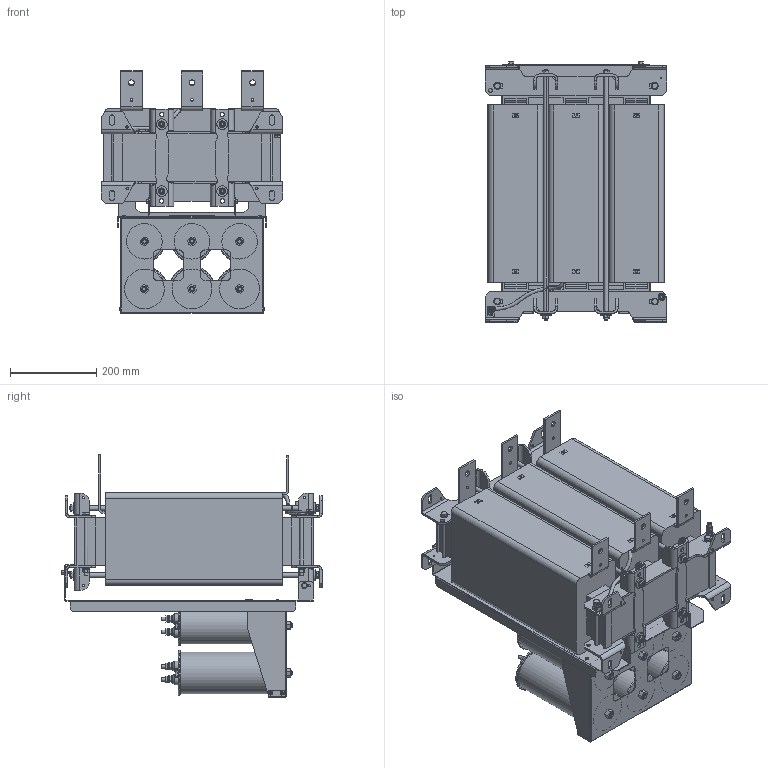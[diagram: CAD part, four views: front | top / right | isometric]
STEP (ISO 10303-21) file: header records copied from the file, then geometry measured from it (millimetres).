
FILE_DESCRIPTION(/* description */ (''),/* implementation_level */ '2;1');
FILE_NAME(/* name */ 'C:\Users\Erika.Jenzer\Desktop\CO20007647\Step Files\FN5420-480-99-E0XXT.stp',/* time_stamp */ '2021-03-02T10:14:27+01:00',/* author */ ('erika.jenzer'),/* organization */ (''),/* preprocessor_version */ 'ST-DEVELOPER v18.1',/* originating_system */ 'Autodesk Inventor 2020',/* authorisation */ '');
FILE_SCHEMA (('AUTOMOTIVE_DESIGN { 1 0 10303 214 3 1 1 }'));
Products named in the file (1): FN5420-480-99-E0XXT
Bounding box: 420 x 601.85 x 559.75 mm (x, y, z)
Volume: 49635259.1 mm3; surface area: 2949775.5 mm2
Topology: 31 solids, 31 shells, 2751 faces, 7503 edges, 5019 vertices
Faces by surface type: plane 1789, cylinder 674, cone 157, bspline 100, torus 30, sphere 1
Full cylindrical faces by diameter (mm): 1 x1, 2.013 x4, 2.5 x1, 2.8 x5, 3.4 x4, 4 x4, 4.1 x4, 4.3 x4, 5.5 x20, 6 x8, 6.6 x6, 7.9 x8, 8 x59, 8.2 x1, 8.4 x18, 8.6 x24, 9 x12, 9.5 x4, 10.2 x16, 10.5 x7, 11.4 x5, 11.5 x12, 12 x18, 12.5 x6, 13 x4, 13.5 x6, 16 x34, 22 x12, 24.7 x12, 25 x8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
Entity records: 94754 total; most frequent: CARTESIAN_POINT 21273, ORIENTED_EDGE 15006, DIRECTION 14404, EDGE_CURVE 7503, VERTEX_POINT 5019, AXIS2_PLACEMENT_3D 4982, LINE 4440, VECTOR 4440
